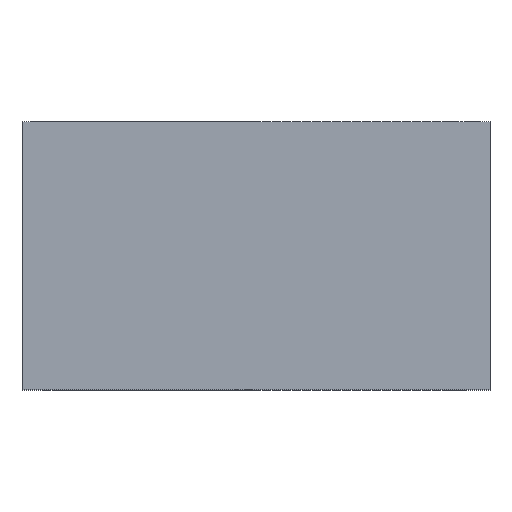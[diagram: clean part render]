
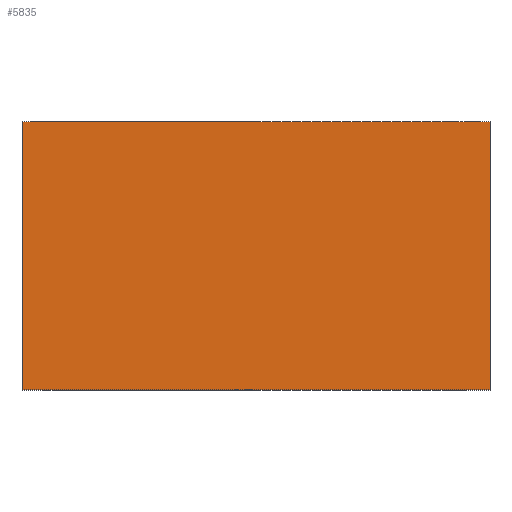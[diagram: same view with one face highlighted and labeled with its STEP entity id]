
A CAD part, top view. The second image highlights one B-rep face of the part: STEP entity #5835.
In plain terms, the highlighted planar face has unit normal (0, 0, 1).
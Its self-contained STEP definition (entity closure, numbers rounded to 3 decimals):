
#301=PLANE('',#6157);
#585=FACE_OUTER_BOUND('',#870,.T.);
#870=EDGE_LOOP('',(#5323,#5324,#5325,#5326));
#912=LINE('',#7713,#1712);
#1671=LINE('',#9252,#2471);
#1672=LINE('',#9255,#2472);
#1673=LINE('',#9256,#2473);
#1712=VECTOR('',#6276,10.);
#2471=VECTOR('',#7565,10.);
#2472=VECTOR('',#7568,10.);
#2473=VECTOR('',#7569,10.);
#2544=VERTEX_POINT('',#7706);
#2547=VERTEX_POINT('',#7711);
#3050=VERTEX_POINT('',#9250);
#3051=VERTEX_POINT('',#9254);
#3112=EDGE_CURVE('',#2547,#2544,#912,.T.);
#3879=EDGE_CURVE('',#3050,#2547,#1671,.T.);
#3880=EDGE_CURVE('',#3051,#3050,#1672,.T.);
#3881=EDGE_CURVE('',#3051,#2544,#1673,.T.);
#5323=ORIENTED_EDGE('',*,*,#3879,.F.);
#5324=ORIENTED_EDGE('',*,*,#3880,.F.);
#5325=ORIENTED_EDGE('',*,*,#3881,.T.);
#5326=ORIENTED_EDGE('',*,*,#3112,.F.);
#5835=ADVANCED_FACE('',(#585),#301,.T.);
#6157=AXIS2_PLACEMENT_3D('',#9253,#7566,#7567);
#6276=DIRECTION('',(-1.,0.,0.));
#7565=DIRECTION('',(0.,-1.,0.));
#7566=DIRECTION('center_axis',(0.,0.,1.));
#7567=DIRECTION('ref_axis',(1.,0.,0.));
#7568=DIRECTION('',(1.,0.,0.));
#7569=DIRECTION('',(0.,-1.,0.));
#7706=CARTESIAN_POINT('',(-4.,-1.,32.));
#7711=CARTESIAN_POINT('',(116.4,-1.,32.));
#7713=CARTESIAN_POINT('',(116.4,-1.,32.));
#9250=CARTESIAN_POINT('',(116.4,68.,32.));
#9252=CARTESIAN_POINT('',(116.4,0.,32.));
#9253=CARTESIAN_POINT('Origin',(-4.,0.,32.));
#9254=CARTESIAN_POINT('',(-4.,68.,32.));
#9255=CARTESIAN_POINT('',(116.4,68.,32.));
#9256=CARTESIAN_POINT('',(-4.,0.,32.));
